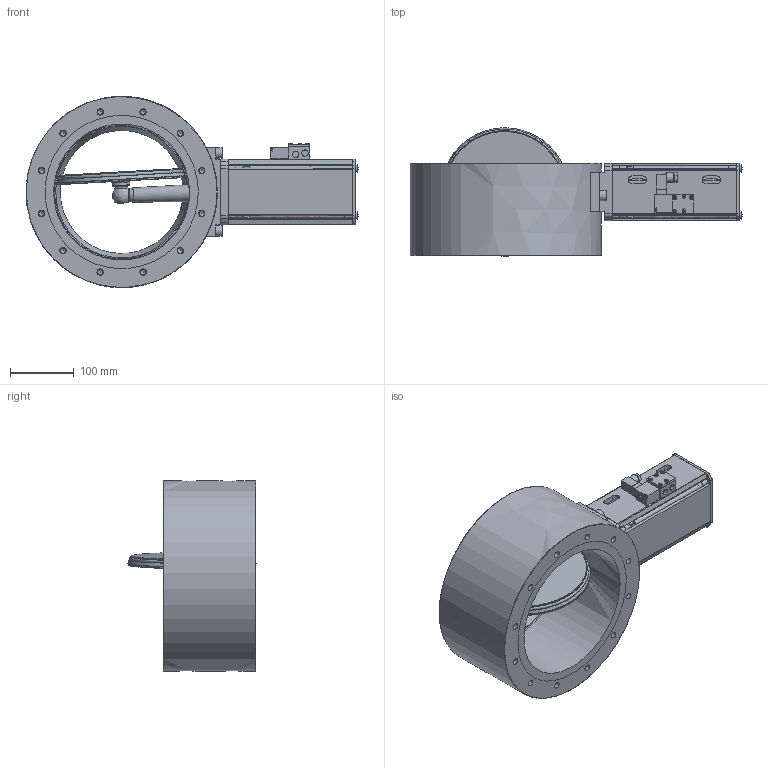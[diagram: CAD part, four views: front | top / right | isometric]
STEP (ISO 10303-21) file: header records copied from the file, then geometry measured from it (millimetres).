
FILE_DESCRIPTION((''),'2;1');
FILE_NAME('O:\MT\MT\Systeme\Cad\Datenexporte\www_vat_ch\251558.stp','2004-06-18T09:45:50',('User'),('SDRC'),'I-DEAS Master Series 9','UNIX','Yes');
FILE_SCHEMA(('CONFIG_CONTROL_DESIGN'));
Length unit declared in the file: millimetre
Assembly tree (41 placements, depth 0):
Bounding box: 520.44 x 201.05 x 299.57 mm (x, y, z)
Volume: 6630214.9 mm3; surface area: 727828.8 mm2
Topology: 47 solids, 47 shells, 1119 faces, 2564 edges, 1661 vertices
Faces by surface type: bspline 1119
Entity records: 29463 total; most frequent: CARTESIAN_POINT 14565, ORIENTED_EDGE 3576, EDGE_CURVE 1788, VERTEX_POINT 1182, EDGE_LOOP 1032, FACE_OUTER_BOUND 799, ADVANCED_FACE 799, QUASI_UNIFORM_CURVE 770
